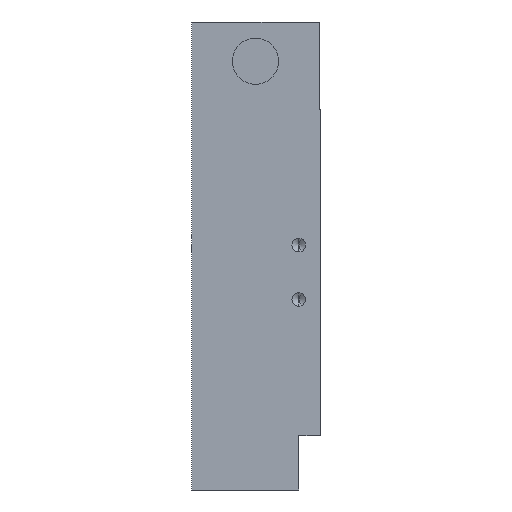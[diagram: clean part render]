
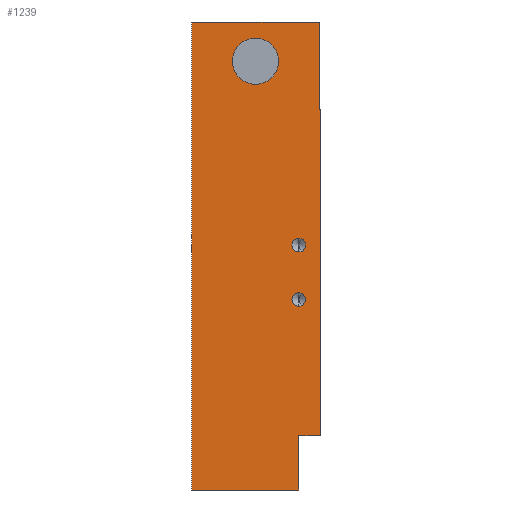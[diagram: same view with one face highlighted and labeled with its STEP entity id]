
A CAD part, left-side view. The second image highlights one B-rep face of the part: STEP entity #1239.
In plain terms, the highlighted planar face has unit normal (-1, 0, 0).
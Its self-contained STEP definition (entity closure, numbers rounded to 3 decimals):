
#18 = ORIENTED_EDGE ( 'NONE', *, *, #119, .F. ) ;
#22 = CARTESIAN_POINT ( 'NONE',  ( -111.5, 23.7, 43. ) ) ;
#68 = EDGE_CURVE ( 'NONE', #1033, #265, #1802, .T. ) ;
#80 = CARTESIAN_POINT ( 'NONE',  ( -111.5, 11.95, 31.55 ) ) ;
#119 = EDGE_CURVE ( 'NONE', #838, #1337, #647, .T. ) ;
#127 = ORIENTED_EDGE ( 'NONE', *, *, #1482, .F. ) ;
#168 = VERTEX_POINT ( 'NONE', #774 ) ;
#184 = EDGE_LOOP ( 'NONE', ( #638, #127 ) ) ;
#208 = LINE ( 'NONE', #422, #634 ) ;
#214 = EDGE_LOOP ( 'NONE', ( #349, #434 ) ) ;
#223 = ORIENTED_EDGE ( 'NONE', *, *, #724, .F. ) ;
#229 = PLANE ( 'NONE',  #690 ) ;
#236 = AXIS2_PLACEMENT_3D ( 'NONE', #1359, #1701, #1347 ) ;
#265 = VERTEX_POINT ( 'NONE', #22 ) ;
#271 = ORIENTED_EDGE ( 'NONE', *, *, #1178, .F. ) ;
#283 = CARTESIAN_POINT ( 'NONE',  ( -111.5, 4., -43. ) ) ;
#308 = DIRECTION ( 'NONE',  ( -1., 0., 0. ) ) ;
#312 = EDGE_CURVE ( 'NONE', #1829, #1335, #671, .T. ) ;
#349 = ORIENTED_EDGE ( 'NONE', *, *, #312, .F. ) ;
#389 = EDGE_CURVE ( 'NONE', #1033, #721, #208, .T. ) ;
#418 = FACE_BOUND ( 'NONE', #214, .T. ) ;
#422 = CARTESIAN_POINT ( 'NONE',  ( -111.5, 23.7, -43. ) ) ;
#434 = ORIENTED_EDGE ( 'NONE', *, *, #1351, .F. ) ;
#439 = AXIS2_PLACEMENT_3D ( 'NONE', #1737, #1179, #1164 ) ;
#494 = DIRECTION ( 'NONE',  ( 0., 0., -1. ) ) ;
#516 = CARTESIAN_POINT ( 'NONE',  ( -111.5, 23.7, 43. ) ) ;
#531 = DIRECTION ( 'NONE',  ( 0., 0., 1. ) ) ;
#533 = DIRECTION ( 'NONE',  ( 0., -1., 0. ) ) ;
#547 = CIRCLE ( 'NONE', #2100, 1.25 ) ;
#557 = CIRCLE ( 'NONE', #1669, 1.25 ) ;
#581 = DIRECTION ( 'NONE',  ( -1., 0., 0. ) ) ;
#592 = CARTESIAN_POINT ( 'NONE',  ( -111.5, 4., -9.25 ) ) ;
#602 = CARTESIAN_POINT ( 'NONE',  ( -111.5, 4., -8. ) ) ;
#606 = DIRECTION ( 'NONE',  ( 0., -1., 0. ) ) ;
#627 = EDGE_CURVE ( 'NONE', #168, #1154, #1586, .T. ) ;
#634 = VECTOR ( 'NONE', #606, 1000. ) ;
#638 = ORIENTED_EDGE ( 'NONE', *, *, #1349, .F. ) ;
#647 = LINE ( 'NONE', #1640, #2219 ) ;
#671 = CIRCLE ( 'NONE', #236, 4.25 ) ;
#685 = CARTESIAN_POINT ( 'NONE',  ( -111.5, 4., 0.75 ) ) ;
#690 = AXIS2_PLACEMENT_3D ( 'NONE', #2052, #1868, #2056 ) ;
#721 = VERTEX_POINT ( 'NONE', #283 ) ;
#724 = EDGE_CURVE ( 'NONE', #1049, #2240, #1620, .T. ) ;
#729 = EDGE_CURVE ( 'NONE', #2347, #168, #2162, .T. ) ;
#745 = CARTESIAN_POINT ( 'NONE',  ( -111.5, 0., 27. ) ) ;
#774 = CARTESIAN_POINT ( 'NONE',  ( -111.5, 0., -33. ) ) ;
#802 = DIRECTION ( 'NONE',  ( -1., 0., 0. ) ) ;
#838 = VERTEX_POINT ( 'NONE', #1078 ) ;
#840 = CARTESIAN_POINT ( 'NONE',  ( -111.5, 4., 3.25 ) ) ;
#881 = VECTOR ( 'NONE', #494, 1000. ) ;
#887 = DIRECTION ( 'NONE',  ( -1., 0., 0. ) ) ;
#918 = FACE_BOUND ( 'NONE', #1998, .T. ) ;
#943 = EDGE_LOOP ( 'NONE', ( #1847, #1684, #1032, #2288, #18, #271, #976, #1816 ) ) ;
#944 = CARTESIAN_POINT ( 'NONE',  ( -111.5, 4., -33. ) ) ;
#976 = ORIENTED_EDGE ( 'NONE', *, *, #68, .F. ) ;
#1013 = VECTOR ( 'NONE', #531, 1000. ) ;
#1018 = EDGE_CURVE ( 'NONE', #2240, #1049, #547, .T. ) ;
#1032 = ORIENTED_EDGE ( 'NONE', *, *, #627, .T. ) ;
#1033 = VERTEX_POINT ( 'NONE', #1907 ) ;
#1042 = VECTOR ( 'NONE', #1867, 1000. ) ;
#1049 = VERTEX_POINT ( 'NONE', #592 ) ;
#1072 = CARTESIAN_POINT ( 'NONE',  ( -111.5, 4., -43. ) ) ;
#1078 = CARTESIAN_POINT ( 'NONE',  ( -111.5, 0.2, 43. ) ) ;
#1154 = VERTEX_POINT ( 'NONE', #745 ) ;
#1164 = DIRECTION ( 'NONE',  ( 0., 0., -1. ) ) ;
#1178 = EDGE_CURVE ( 'NONE', #265, #838, #1473, .T. ) ;
#1179 = DIRECTION ( 'NONE',  ( -1., 0., 0. ) ) ;
#1190 = VECTOR ( 'NONE', #533, 1000. ) ;
#1239 = ADVANCED_FACE ( 'NONE', ( #1830, #918, #418, #1918 ), #229, .F. ) ;
#1269 = DIRECTION ( 'NONE',  ( 0., -1., 0. ) ) ;
#1286 = LINE ( 'NONE', #1072, #881 ) ;
#1293 = VECTOR ( 'NONE', #1269, 1000. ) ;
#1335 = VERTEX_POINT ( 'NONE', #2082 ) ;
#1337 = VERTEX_POINT ( 'NONE', #1562 ) ;
#1347 = DIRECTION ( 'NONE',  ( 0., 0., -1. ) ) ;
#1349 = EDGE_CURVE ( 'NONE', #2037, #1571, #1559, .T. ) ;
#1351 = EDGE_CURVE ( 'NONE', #1335, #1829, #2359, .T. ) ;
#1359 = CARTESIAN_POINT ( 'NONE',  ( -111.5, 11.95, 35.8 ) ) ;
#1390 = CARTESIAN_POINT ( 'NONE',  ( -111.5, 4., -33. ) ) ;
#1407 = CARTESIAN_POINT ( 'NONE',  ( -111.5, 4., -8. ) ) ;
#1444 = AXIS2_PLACEMENT_3D ( 'NONE', #1902, #802, #1730 ) ;
#1448 = LINE ( 'NONE', #2231, #1042 ) ;
#1473 = LINE ( 'NONE', #2211, #1293 ) ;
#1482 = EDGE_CURVE ( 'NONE', #1571, #2037, #557, .T. ) ;
#1540 = AXIS2_PLACEMENT_3D ( 'NONE', #1407, #887, #2186 ) ;
#1559 = CIRCLE ( 'NONE', #1444, 1.25 ) ;
#1562 = CARTESIAN_POINT ( 'NONE',  ( -111.5, 0.2, 27. ) ) ;
#1571 = VERTEX_POINT ( 'NONE', #685 ) ;
#1586 = LINE ( 'NONE', #2144, #1813 ) ;
#1597 = EDGE_CURVE ( 'NONE', #2347, #721, #1286, .T. ) ;
#1620 = CIRCLE ( 'NONE', #1540, 1.25 ) ;
#1640 = CARTESIAN_POINT ( 'NONE',  ( -111.5, 0.2, 43. ) ) ;
#1669 = AXIS2_PLACEMENT_3D ( 'NONE', #2299, #308, #1775 ) ;
#1684 = ORIENTED_EDGE ( 'NONE', *, *, #729, .T. ) ;
#1701 = DIRECTION ( 'NONE',  ( -1., 0., 0. ) ) ;
#1730 = DIRECTION ( 'NONE',  ( 0., 0., 1. ) ) ;
#1737 = CARTESIAN_POINT ( 'NONE',  ( -111.5, 11.95, 35.8 ) ) ;
#1738 = ORIENTED_EDGE ( 'NONE', *, *, #1018, .F. ) ;
#1775 = DIRECTION ( 'NONE',  ( 0., 0., 1. ) ) ;
#1802 = LINE ( 'NONE', #516, #1013 ) ;
#1813 = VECTOR ( 'NONE', #1988, 1000. ) ;
#1816 = ORIENTED_EDGE ( 'NONE', *, *, #389, .T. ) ;
#1829 = VERTEX_POINT ( 'NONE', #80 ) ;
#1830 = FACE_BOUND ( 'NONE', #184, .T. ) ;
#1847 = ORIENTED_EDGE ( 'NONE', *, *, #1597, .F. ) ;
#1867 = DIRECTION ( 'NONE',  ( 0., -1., 0. ) ) ;
#1868 = DIRECTION ( 'NONE',  ( 1., 0., 0. ) ) ;
#1902 = CARTESIAN_POINT ( 'NONE',  ( -111.5, 4., 2. ) ) ;
#1907 = CARTESIAN_POINT ( 'NONE',  ( -111.5, 23.7, -43. ) ) ;
#1918 = FACE_OUTER_BOUND ( 'NONE', #943, .T. ) ;
#1988 = DIRECTION ( 'NONE',  ( 0., 0., 1. ) ) ;
#1998 = EDGE_LOOP ( 'NONE', ( #1738, #223 ) ) ;
#2009 = DIRECTION ( 'NONE',  ( 0., 0., -1. ) ) ;
#2037 = VERTEX_POINT ( 'NONE', #840 ) ;
#2052 = CARTESIAN_POINT ( 'NONE',  ( -111.5, 23.7, 43. ) ) ;
#2056 = DIRECTION ( 'NONE',  ( 0., 0., -1. ) ) ;
#2080 = DIRECTION ( 'NONE',  ( 0., 0., 1. ) ) ;
#2082 = CARTESIAN_POINT ( 'NONE',  ( -111.5, 11.95, 40.05 ) ) ;
#2100 = AXIS2_PLACEMENT_3D ( 'NONE', #602, #581, #2080 ) ;
#2144 = CARTESIAN_POINT ( 'NONE',  ( -111.5, 0., 43. ) ) ;
#2162 = LINE ( 'NONE', #1390, #1190 ) ;
#2186 = DIRECTION ( 'NONE',  ( 0., 0., 1. ) ) ;
#2211 = CARTESIAN_POINT ( 'NONE',  ( -111.5, 23.7, 43. ) ) ;
#2219 = VECTOR ( 'NONE', #2009, 1000. ) ;
#2231 = CARTESIAN_POINT ( 'NONE',  ( -111.5, 0.2, 27. ) ) ;
#2237 = CARTESIAN_POINT ( 'NONE',  ( -111.5, 4., -6.75 ) ) ;
#2240 = VERTEX_POINT ( 'NONE', #2237 ) ;
#2288 = ORIENTED_EDGE ( 'NONE', *, *, #2292, .F. ) ;
#2292 = EDGE_CURVE ( 'NONE', #1337, #1154, #1448, .T. ) ;
#2299 = CARTESIAN_POINT ( 'NONE',  ( -111.5, 4., 2. ) ) ;
#2347 = VERTEX_POINT ( 'NONE', #944 ) ;
#2359 = CIRCLE ( 'NONE', #439, 4.25 ) ;
